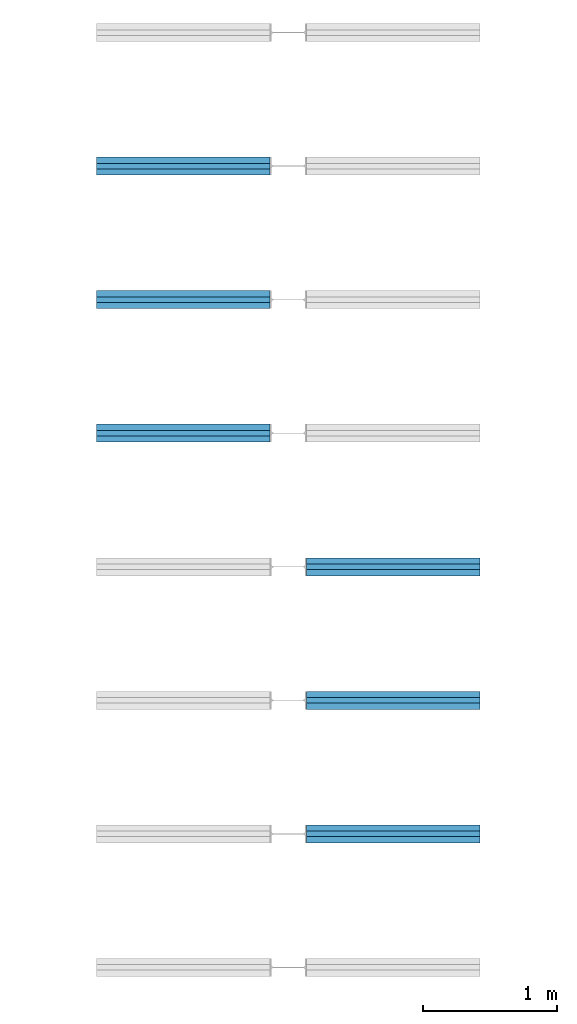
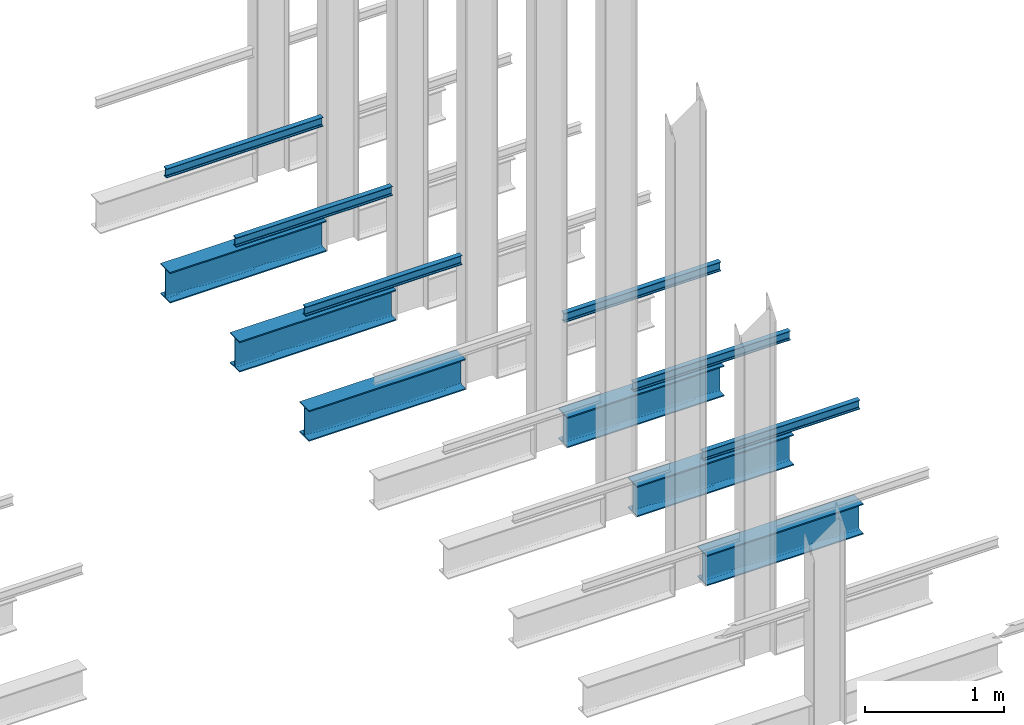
# One storey, part 184 of 302: 12 beams.
"""IFC2X3 building model written with IfcOpenShell, lengths in metres."""

import ifcopenshell
import ifcopenshell.guid

model = None  # the IFC model being written
_history = None  # IfcOwnerHistory: only IFC2X3 demands one
_inside = {}  # id of a spatial element -> (the spatial element, [elements in it])
_under = {}  # id of a project, library or spatial element -> (it, [spatial elements below it])
_declared = {}  # id of a project -> (the project, [libraries it declares])
_typed = {}  # id of a type object -> (the type object, [elements of that type])
_made_of = {}  # id of a material, layer set ... -> (it, [elements and type objects made of it])


def new_model(schema):
    """Start an empty IFC model of exactly this schema.

    Asked for "IFC4X3", IfcOpenShell would pick the latest addendum, in which some entities
    have other attributes; the version numbers below select the first issue.
    IFC2X3 requires an IfcOwnerHistory on every rooted entity: one is made here for all.
    """
    global model, _history
    if schema == "IFC4X3":
        model = ifcopenshell.file(schema_version=(4, 3, 0, 0))
    else:
        model = ifcopenshell.file(schema=schema)
    _inside.clear()
    _under.clear()
    _declared.clear()
    _typed.clear()
    _made_of.clear()
    _history = None
    if model.schema == "IFC2X3":
        org = make("IfcOrganization", Name="unknown")
        user = make(
            "IfcPersonAndOrganization",
            ThePerson=make("IfcPerson", FamilyName="unknown"),
            TheOrganization=org,
        )
        app = make(
            "IfcApplication",
            ApplicationDeveloper=org,
            Version="unknown",
            ApplicationFullName="unknown",
            ApplicationIdentifier="unknown",
        )
        _history = make(
            "IfcOwnerHistory",
            OwningUser=user,
            OwningApplication=app,
            ChangeAction="ADDED",
            CreationDate=0,
        )
    return model


def make(cls, **values):
    """One entity of the class cls with the attributes given. An attribute that is None is left unset."""
    return model.create_entity(
        cls, **{name: value for name, value in values.items() if value is not None}
    )


def entity(cls, *values):
    """Any entity or typed value of the class cls, its attributes in the order of the schema. None: left unset."""
    e = model.create_entity(cls)
    for i, value in enumerate(values):
        if value is not None:
            e[i] = value
    return e


def rooted(cls, **values):
    """An entity with a GlobalId (a new one), such as an element, a storey or a relation."""
    return make(cls, GlobalId=ifcopenshell.guid.new(), OwnerHistory=_history, **values)


def si_unit(unit_type, name, prefix=None):
    """IfcSIUnit, for example si_unit("LENGTHUNIT", "METRE", prefix="MILLI")."""
    return make("IfcSIUnit", UnitType=unit_type, Prefix=prefix, Name=name)


def converted_unit(unit_type, name, factor, base, dimensions=None, offset=None):
    """IfcConversionBasedUnit, such as the inch: factor (a typed value) times the base unit."""
    return make(
        "IfcConversionBasedUnit"
        if offset is None
        else "IfcConversionBasedUnitWithOffset",
        ConversionOffset=offset,
        Dimensions=None
        if dimensions is None
        else entity("IfcDimensionalExponents", *dimensions),
        UnitType=unit_type,
        Name=name,
        ConversionFactor=make(
            "IfcMeasureWithUnit", ValueComponent=factor, UnitComponent=base
        ),
    )


def derived_unit(unit_type, elements):
    """IfcDerivedUnit: a product of units, each with its exponent."""
    return make(
        "IfcDerivedUnit",
        Elements=[
            make("IfcDerivedUnitElement", Unit=unit, Exponent=power)
            for unit, power in elements
        ],
        UnitType=unit_type,
    )


def assignment(units):
    """IfcUnitAssignment: the units of a project."""
    return None if units is None else make("IfcUnitAssignment", Units=units)


def point(xyz):
    """IfcCartesianPoint."""
    return None if xyz is None else make("IfcCartesianPoint", Coordinates=xyz)


def direction(xyz):
    """IfcDirection."""
    return None if xyz is None else make("IfcDirection", DirectionRatios=xyz)


def frame(location, z_axis=None, x_axis=None):
    """IfcAxis2Placement3D, a coordinate frame: its origin and axes. An axis left out is left unset."""
    return make(
        "IfcAxis2Placement3D",
        Location=point(location),
        Axis=direction(z_axis),
        RefDirection=direction(x_axis),
    )


def frame_2d(location, x_axis=None):
    """IfcAxis2Placement2D, a coordinate frame in the plane: its origin and x axis."""
    return make(
        "IfcAxis2Placement2D", Location=point(location), RefDirection=direction(x_axis)
    )


def origin():
    """The frame at (0, 0, 0) with its axes left unset."""
    return frame((0.0, 0.0, 0.0))


def place(relative_to, where):
    """IfcLocalPlacement: puts the frame where relative to a parent placement (None: the world)."""
    return make(
        "IfcLocalPlacement", PlacementRelTo=relative_to, RelativePlacement=where
    )


def context(
    kind, dimensions, precision=None, world=None, true_north=None, identifier=None
):
    """IfcGeometricRepresentationContext, for example the 3D "Model" context."""
    return make(
        "IfcGeometricRepresentationContext",
        ContextIdentifier=identifier,
        ContextType=kind,
        CoordinateSpaceDimension=dimensions,
        Precision=precision,
        WorldCoordinateSystem=world,
        TrueNorth=true_north,
    )


def subcontext(parent, identifier, kind, view, scale=None):
    """IfcGeometricRepresentationSubContext, for example "Body" below "Model"."""
    return make(
        "IfcGeometricRepresentationSubContext",
        ContextIdentifier=identifier,
        ContextType=kind,
        ParentContext=parent,
        TargetScale=scale,
        TargetView=view,
    )


def project(units=None, contexts=None):
    """IfcProject with its units and contexts."""
    return rooted(
        "IfcProject",
        Name="project",
        RepresentationContexts=contexts,
        UnitsInContext=assignment(units),
    )


def spatial(cls, under=None, at=None, **own):
    """A site, building, storey or space (cls), placed at a placement, below another one or the project."""
    s = rooted(cls, ObjectPlacement=at, **own)
    if under is not None:
        _under.setdefault(under.id(), (under, []))[1].append(s)
    return s


def polyline(points):
    """IfcPolyline through the points."""
    return make("IfcPolyline", Points=[point(p) for p in points])


def circle_curve(where, radius):
    """IfcCircle in the frame where."""
    return make("IfcCircle", Position=where, Radius=radius)


def parameter(value):
    """IfcParameterValue: where a trimmed curve begins or ends, as a parameter of its basis curve."""
    return model.create_entity("IfcParameterValue", value)


def trimmed(basis, trim1, trim2, sense, master):
    """IfcTrimmedCurve: the piece of a basis curve between two trims."""
    return make(
        "IfcTrimmedCurve",
        BasisCurve=basis,
        Trim1=trim1,
        Trim2=trim2,
        SenseAgreement=sense,
        MasterRepresentation=master,
    )


def segment(curve, same_sense, transition):
    """IfcCompositeCurveSegment."""
    return make(
        "IfcCompositeCurveSegment",
        Transition=transition,
        SameSense=same_sense,
        ParentCurve=curve,
    )


def composite_curve(segments, self_intersect=None):
    """IfcCompositeCurve: segments joined end to end."""
    return make("IfcCompositeCurve", Segments=segments, SelfIntersect=self_intersect)


def profile(cls, at=None, kind="AREA", **sizes):
    """A parametric profile (cls). Its sizes go by their IFC names, for example OverallWidth=200.0."""
    return make(cls, ProfileType=kind, Position=at, **sizes)


def i_section(**sizes):
    """IfcIShapeProfileDef."""
    return profile("IfcIShapeProfileDef", **sizes)


def outline(outer, holes=None, kind="AREA"):
    """IfcArbitraryClosedProfileDef: a profile drawn as a closed curve; with holes, ...WithVoids."""
    if holes is None:
        return make("IfcArbitraryClosedProfileDef", ProfileType=kind, OuterCurve=outer)
    return make(
        "IfcArbitraryProfileDefWithVoids",
        ProfileType=kind,
        OuterCurve=outer,
        InnerCurves=holes,
    )


def extrude(swept, where, along, depth):
    """IfcExtrudedAreaSolid: the profile swept, set in the frame where, extruded along a direction by depth."""
    return make(
        "IfcExtrudedAreaSolid",
        SweptArea=swept,
        Position=where,
        ExtrudedDirection=direction(along),
        Depth=depth,
    )


def shape(context_of_items, identifier, shape_type, items):
    """IfcShapeRepresentation: the items that make up one representation, for example the "Body"."""
    return make(
        "IfcShapeRepresentation",
        ContextOfItems=context_of_items,
        RepresentationIdentifier=identifier,
        RepresentationType=shape_type,
        Items=items,
    )


def material(Name=None, Category=None):
    """IfcMaterial."""
    return make("IfcMaterial", Name=Name, Category=Category)


def made_of(thing, what):
    """Note that an element or type object is made of a material, layer set ...; save() writes the relation."""
    if what is not None:
        _made_of.setdefault(what.id(), (what, []))[1].append(thing)
    return thing


def type_object(cls, material=None, **own):
    """A type object (cls), such as IfcWallType, which elements share."""
    return made_of(rooted(cls, **own), material)


def element(
    cls,
    number,
    at=None,
    inside=None,
    cuts=None,
    type_object=None,
    material=None,
    context=None,
    identifier="Body",
    shape_type=None,
    held_by="IfcProductDefinitionShape",
    body=None,
    shapes=None,
    **own,
):
    """One element of the class cls, such as IfcWall. Its Tag is "e" and its number.

    at: its placement. inside: the storey or other place that contains it. cuts: it is an
    opening in that element (IfcRelVoidsElement). A single representation is given by context,
    identifier, shape_type and body (its items); several are given by shapes. held_by: the class
    of the entity that holds the representations. save() writes the other relations.
    """
    e = rooted(cls, Tag="e%d" % number, ObjectPlacement=at, **own)
    if body is not None:
        shapes = [shape(context, identifier, shape_type, body)]
    if shapes is not None:
        e.Representation = make(held_by, Representations=shapes)
    if inside is not None:
        _inside.setdefault(inside.id(), (inside, []))[1].append(e)
    if cuts is not None:
        rooted(
            "IfcRelVoidsElement", RelatingBuildingElement=cuts, RelatedOpeningElement=e
        )
    if type_object is not None:
        _typed.setdefault(type_object.id(), (type_object, []))[1].append(e)
    return made_of(e, material)


def aggregate(whole, parts):
    """IfcRelAggregates: a whole, such as a stair, and the parts it consists of."""
    return rooted("IfcRelAggregates", RelatingObject=whole, RelatedObjects=parts)


def save(model, path):
    """Write the relations noted so far, then the file.

    IfcRelAggregates (storeys below a building ...), IfcRelContainedInSpatialStructure (elements
    in a storey), IfcRelDefinesByType, IfcRelAssociatesMaterial and IfcRelDeclares: one each for
    every whole, place, type object, material and project.
    """
    for whole, parts in _under.values():
        aggregate(whole, parts)
    for where, things in _inside.values():
        rooted(
            "IfcRelContainedInSpatialStructure",
            RelatedElements=things,
            RelatingStructure=where,
        )
    for kind, things in _typed.values():
        rooted("IfcRelDefinesByType", RelatedObjects=things, RelatingType=kind)
    for what, things in _made_of.values():
        rooted("IfcRelAssociatesMaterial", RelatedObjects=things, RelatingMaterial=what)
    for by, libraries in _declared.values():
        rooted("IfcRelDeclares", RelatingContext=by, RelatedDefinitions=libraries)
    model.write(path)


model = new_model("IFC2X3")

# Units and contexts
model_context = context("Model", 3, precision=1e-05, world=origin(), true_north=direction((6.12303176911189e-17, 1.0)))
body_context = subcontext(model_context, "Body", "Model", "MODEL_VIEW")
ifc_project = project(units=[si_unit("LENGTHUNIT", "METRE"), si_unit("AREAUNIT", "SQUARE_METRE"), si_unit("VOLUMEUNIT", "CUBIC_METRE"), converted_unit("PLANEANGLEUNIT", "DEGREE", entity("IfcRatioMeasure", 0.0174532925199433), si_unit("PLANEANGLEUNIT", "RADIAN"), dimensions=[0, 0, 0, 0, 0, 0, 0]), si_unit("MASSUNIT", "GRAM", prefix="KILO"), derived_unit("MASSDENSITYUNIT", [(si_unit("MASSUNIT", "GRAM", prefix="KILO"), 1), (si_unit("LENGTHUNIT", "METRE"), -3)]), derived_unit("MOMENTOFINERTIAUNIT", [(si_unit("LENGTHUNIT", "METRE"), 4)]), si_unit("TIMEUNIT", "SECOND"), si_unit("FREQUENCYUNIT", "HERTZ"), si_unit("THERMODYNAMICTEMPERATUREUNIT", "DEGREE_CELSIUS"), derived_unit("THERMALTRANSMITTANCEUNIT", [(si_unit("MASSUNIT", "GRAM", prefix="KILO"), 1), (si_unit("THERMODYNAMICTEMPERATUREUNIT", "KELVIN"), -1), (si_unit("TIMEUNIT", "SECOND"), -3)]), derived_unit("VOLUMETRICFLOWRATEUNIT", [(si_unit("LENGTHUNIT", "METRE"), 3), (si_unit("TIMEUNIT", "SECOND"), -1)]), si_unit("ELECTRICCURRENTUNIT", "AMPERE"), si_unit("ELECTRICVOLTAGEUNIT", "VOLT"), si_unit("POWERUNIT", "WATT"), si_unit("FORCEUNIT", "NEWTON", prefix="KILO"), si_unit("ILLUMINANCEUNIT", "LUX"), si_unit("LUMINOUSFLUXUNIT", "LUMEN"), si_unit("LUMINOUSINTENSITYUNIT", "CANDELA"), derived_unit("USERDEFINED", [(si_unit("MASSUNIT", "GRAM", prefix="KILO"), -1), (si_unit("LENGTHUNIT", "METRE"), -2), (si_unit("TIMEUNIT", "SECOND"), 3), (si_unit("LUMINOUSFLUXUNIT", "LUMEN"), 1)]), derived_unit("LINEARVELOCITYUNIT", [(si_unit("LENGTHUNIT", "METRE"), 1), (si_unit("TIMEUNIT", "SECOND"), -1)]), si_unit("PRESSUREUNIT", "PASCAL"), derived_unit("USERDEFINED", [(si_unit("LENGTHUNIT", "METRE"), -2), (si_unit("MASSUNIT", "GRAM", prefix="KILO"), 1), (si_unit("TIMEUNIT", "SECOND"), -2)]), derived_unit("LINEARFORCEUNIT", [(si_unit("MASSUNIT", "GRAM", prefix="KILO"), 1), (si_unit("LENGTHUNIT", "METRE"), 1), (si_unit("TIMEUNIT", "SECOND"), -2), (si_unit("LENGTHUNIT", "METRE"), -1)]), derived_unit("PLANARFORCEUNIT", [(si_unit("MASSUNIT", "GRAM", prefix="KILO"), 1), (si_unit("LENGTHUNIT", "METRE"), 1), (si_unit("TIMEUNIT", "SECOND"), -2), (si_unit("LENGTHUNIT", "METRE"), -2)])], contexts=[model_context])

# Site, building, storey
site_placement = place(None, origin())
site = spatial("IfcSite", under=ifc_project, at=site_placement, Name="Default", CompositionType="ELEMENT")
building_placement = place(site_placement, origin())
building = spatial("IfcBuilding", under=site, at=building_placement, CompositionType="ELEMENT")
storey_placement = place(building_placement, frame((0.0, 0.0, -1.3)))
storey = spatial("IfcBuildingStorey", under=building, at=storey_placement, Name="00_EG", CompositionType="ELEMENT", Elevation=-1.3)

# Beams
ifc_material = material(Name="Metall - Baustahl S235")
beam_type_1 = type_object("IfcBeamType", Name="IPN Träger:IPN 80", PredefinedType="NOTDEFINED")
beam_1_placement = place(storey_placement, frame((-164.910111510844, 54.0365889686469, 2.42), z_axis=(0.0, 0.0, 1.0), x_axis=(-1.0, 0.0, 0.0)))
element("IfcBeam", 1, at=beam_1_placement, inside=storey, type_object=beam_type_1, material=ifc_material, Name="IPN Träger:IPN 80", ObjectType="IPN Träger:IPN 80", context=body_context, shape_type="SweptSolid", body=[
    extrude(outline(composite_curve([segment(polyline([(0.0375704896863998, -0.0209999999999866), (0.0399999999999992, -0.0209999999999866)]), True, "CONTINUOUS"), segment(polyline([(0.0399999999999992, -0.0209999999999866), (0.0399999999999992, 0.0210000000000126)]), True, "CONTINUOUS"), segment(polyline([(0.039999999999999, 0.0210000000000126), (0.037570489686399, 0.0210000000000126)]), True, "CONTINUOUS"), segment(trimmed(circle_curve(frame_2d((0.0375704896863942, 0.0187000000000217), x_axis=(0.0, 1.0)), 0.0022999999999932), [parameter(0.0)], [parameter(82.0300000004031)], True, "PARAMETER"), True, "CONTINUOUS"), segment(polyline([(0.0352927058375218, 0.0190189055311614), (0.0333732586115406, 0.00530924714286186)]), True, "CONTINUOUS"), segment(trimmed(circle_curve(frame_2d((0.0295109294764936, 0.00585000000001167), x_axis=(0.990340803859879, -0.138654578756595)), 0.00389999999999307), [parameter(277.969999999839)], [parameter(0.0)], True, "PARAMETER"), False, "CONTINUOUS"), segment(polyline([(0.0295109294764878, 0.00195000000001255), (-0.0295109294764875, 0.00195000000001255)]), True, "CONTINUOUS"), segment(trimmed(circle_curve(frame_2d((-0.0295109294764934, 0.00585000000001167), x_axis=(0.0, -1.0)), 0.00389999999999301), [parameter(277.969999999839)], [parameter(0.0)], True, "PARAMETER"), False, "CONTINUOUS"), segment(polyline([(-0.0333732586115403, 0.00530924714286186), (-0.0352927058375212, 0.0190189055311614)]), True, "CONTINUOUS"), segment(trimmed(circle_curve(frame_2d((-0.0375704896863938, 0.0187000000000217), x_axis=(0.990340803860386, 0.138654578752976)), 0.00229999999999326), [parameter(0.0)], [parameter(82.0300000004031)], True, "PARAMETER"), True, "CONTINUOUS"), segment(polyline([(-0.0375704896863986, 0.0210000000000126), (-0.0400000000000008, 0.0210000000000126)]), True, "CONTINUOUS"), segment(polyline([(-0.0400000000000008, 0.0210000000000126), (-0.0400000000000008, -0.0209999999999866)]), True, "CONTINUOUS"), segment(polyline([(-0.0400000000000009, -0.0209999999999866), (-0.037570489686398, -0.0209999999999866)]), True, "CONTINUOUS"), segment(trimmed(circle_curve(frame_2d((-0.0375704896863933, -0.0186999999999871), x_axis=(0.0, -1.0)), 0.00229999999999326), [parameter(0.0)], [parameter(82.0300000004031)], True, "PARAMETER"), True, "CONTINUOUS"), segment(polyline([(-0.0352927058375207, -0.0190189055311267), (-0.0333732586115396, -0.00530924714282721)]), True, "CONTINUOUS"), segment(trimmed(circle_curve(frame_2d((-0.0295109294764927, -0.00584999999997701), x_axis=(-0.990340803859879, 0.138654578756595)), 0.00389999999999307), [parameter(277.969999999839)], [parameter(0.0)], True, "PARAMETER"), False, "CONTINUOUS"), segment(polyline([(-0.0295109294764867, -0.00194999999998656), (0.0295109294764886, -0.00194999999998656)]), True, "CONTINUOUS"), segment(trimmed(circle_curve(frame_2d((0.0295109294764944, -0.00584999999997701), x_axis=(0.0, 1.0)), 0.00389999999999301), [parameter(277.969999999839)], [parameter(0.0)], True, "PARAMETER"), False, "CONTINUOUS"), segment(polyline([(0.0333732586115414, -0.00530924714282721), (0.0352927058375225, -0.0190189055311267)]), True, "CONTINUOUS"), segment(trimmed(circle_curve(frame_2d((0.0375704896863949, -0.0186999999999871), x_axis=(-0.990340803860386, -0.138654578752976)), 0.00229999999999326), [parameter(0.0)], [parameter(82.0300000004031)], True, "PARAMETER"), True, "CONTINUOUS")], self_intersect=False)), frame((0.000100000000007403, 0.0209999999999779, -0.0400000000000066), z_axis=(1.0, 0.0, 0.0), x_axis=(0.0, 0.0, -1.0)), (0.0, 0.0, 1.0), 1.29990000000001),
])
beam_2_placement = place(storey_placement, frame((-164.910111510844, 53.0365889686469, 2.42), z_axis=(0.0, 0.0, 1.0), x_axis=(-1.0, 0.0, 0.0)))
element("IfcBeam", 2, at=beam_2_placement, inside=storey, type_object=beam_type_1, material=ifc_material, Name="IPN Träger:IPN 80", ObjectType="IPN Träger:IPN 80", context=body_context, shape_type="SweptSolid", body=[
    extrude(outline(composite_curve([segment(polyline([(0.0375704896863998, -0.0210000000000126), (0.0399999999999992, -0.0210000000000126)]), True, "CONTINUOUS"), segment(polyline([(0.0399999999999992, -0.0210000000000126), (0.0399999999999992, 0.0209999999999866)]), True, "CONTINUOUS"), segment(polyline([(0.039999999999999, 0.0209999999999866), (0.037570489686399, 0.0209999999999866)]), True, "CONTINUOUS"), segment(trimmed(circle_curve(frame_2d((0.0375704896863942, 0.0186999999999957), x_axis=(0.0, 1.0)), 0.0022999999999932), [parameter(0.0)], [parameter(82.0300000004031)], True, "PARAMETER"), True, "CONTINUOUS"), segment(polyline([(0.0352927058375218, 0.0190189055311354), (0.0333732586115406, 0.00530924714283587)]), True, "CONTINUOUS"), segment(trimmed(circle_curve(frame_2d((0.0295109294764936, 0.00584999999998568), x_axis=(0.990340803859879, -0.138654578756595)), 0.00389999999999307), [parameter(277.969999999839)], [parameter(0.0)], True, "PARAMETER"), False, "CONTINUOUS"), segment(polyline([(0.0295109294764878, 0.00194999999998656), (-0.0295109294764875, 0.00194999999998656)]), True, "CONTINUOUS"), segment(trimmed(circle_curve(frame_2d((-0.0295109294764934, 0.00584999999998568), x_axis=(0.0, -1.0)), 0.00389999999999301), [parameter(277.969999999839)], [parameter(0.0)], True, "PARAMETER"), False, "CONTINUOUS"), segment(polyline([(-0.0333732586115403, 0.00530924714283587), (-0.0352927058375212, 0.0190189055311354)]), True, "CONTINUOUS"), segment(trimmed(circle_curve(frame_2d((-0.0375704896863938, 0.0186999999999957), x_axis=(0.990340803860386, 0.138654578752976)), 0.00229999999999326), [parameter(0.0)], [parameter(82.0300000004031)], True, "PARAMETER"), True, "CONTINUOUS"), segment(polyline([(-0.0375704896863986, 0.0209999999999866), (-0.0400000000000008, 0.0209999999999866)]), True, "CONTINUOUS"), segment(polyline([(-0.0400000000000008, 0.0209999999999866), (-0.0400000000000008, -0.0210000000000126)]), True, "CONTINUOUS"), segment(polyline([(-0.0400000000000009, -0.0210000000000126), (-0.037570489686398, -0.0210000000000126)]), True, "CONTINUOUS"), segment(trimmed(circle_curve(frame_2d((-0.0375704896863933, -0.0187000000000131), x_axis=(0.0, -1.0)), 0.00229999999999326), [parameter(0.0)], [parameter(82.0300000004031)], True, "PARAMETER"), True, "CONTINUOUS"), segment(polyline([(-0.0352927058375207, -0.0190189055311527), (-0.0333732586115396, -0.0053092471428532)]), True, "CONTINUOUS"), segment(trimmed(circle_curve(frame_2d((-0.0295109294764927, -0.005850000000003), x_axis=(-0.990340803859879, 0.138654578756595)), 0.00389999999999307), [parameter(277.969999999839)], [parameter(0.0)], True, "PARAMETER"), False, "CONTINUOUS"), segment(polyline([(-0.0295109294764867, -0.00195000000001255), (0.0295109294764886, -0.00195000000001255)]), True, "CONTINUOUS"), segment(trimmed(circle_curve(frame_2d((0.0295109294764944, -0.005850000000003), x_axis=(0.0, 1.0)), 0.00389999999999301), [parameter(277.969999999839)], [parameter(0.0)], True, "PARAMETER"), False, "CONTINUOUS"), segment(polyline([(0.0333732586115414, -0.0053092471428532), (0.0352927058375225, -0.0190189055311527)]), True, "CONTINUOUS"), segment(trimmed(circle_curve(frame_2d((0.0375704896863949, -0.0187000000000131), x_axis=(-0.990340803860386, -0.138654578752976)), 0.00229999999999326), [parameter(0.0)], [parameter(82.0300000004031)], True, "PARAMETER"), True, "CONTINUOUS")], self_intersect=False)), frame((0.000100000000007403, 0.0210000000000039, -0.0400000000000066), z_axis=(1.0, 0.0, 0.0), x_axis=(0.0, 0.0, -1.0)), (0.0, 0.0, 1.0), 1.29990000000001),
])
beam_3_placement = place(storey_placement, frame((-164.910111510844, 52.0365889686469, 2.42), z_axis=(0.0, 0.0, 1.0), x_axis=(-1.0, 0.0, 0.0)))
element("IfcBeam", 3, at=beam_3_placement, inside=storey, type_object=beam_type_1, material=ifc_material, Name="IPN Träger:IPN 80", ObjectType="IPN Träger:IPN 80", context=body_context, shape_type="SweptSolid", body=[
    extrude(outline(composite_curve([segment(polyline([(0.0375704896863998, -0.0209999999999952), (0.0399999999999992, -0.0209999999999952)]), True, "CONTINUOUS"), segment(polyline([(0.0399999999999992, -0.0209999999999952), (0.0399999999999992, 0.0210000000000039)]), True, "CONTINUOUS"), segment(polyline([(0.039999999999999, 0.0210000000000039), (0.037570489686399, 0.0210000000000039)]), True, "CONTINUOUS"), segment(trimmed(circle_curve(frame_2d((0.0375704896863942, 0.0187000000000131), x_axis=(0.0, 1.0)), 0.0022999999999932), [parameter(0.0)], [parameter(82.0300000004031)], True, "PARAMETER"), True, "CONTINUOUS"), segment(polyline([(0.0352927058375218, 0.0190189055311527), (0.0333732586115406, 0.0053092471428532)]), True, "CONTINUOUS"), segment(trimmed(circle_curve(frame_2d((0.0295109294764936, 0.005850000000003), x_axis=(0.990340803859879, -0.138654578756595)), 0.00389999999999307), [parameter(277.969999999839)], [parameter(0.0)], True, "PARAMETER"), False, "CONTINUOUS"), segment(polyline([(0.0295109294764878, 0.00195000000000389), (-0.0295109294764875, 0.00195000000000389)]), True, "CONTINUOUS"), segment(trimmed(circle_curve(frame_2d((-0.0295109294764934, 0.005850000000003), x_axis=(0.0, -1.0)), 0.00389999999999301), [parameter(277.969999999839)], [parameter(0.0)], True, "PARAMETER"), False, "CONTINUOUS"), segment(polyline([(-0.0333732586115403, 0.0053092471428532), (-0.0352927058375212, 0.0190189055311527)]), True, "CONTINUOUS"), segment(trimmed(circle_curve(frame_2d((-0.0375704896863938, 0.0187000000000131), x_axis=(0.990340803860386, 0.138654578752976)), 0.00229999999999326), [parameter(0.0)], [parameter(82.0300000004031)], True, "PARAMETER"), True, "CONTINUOUS"), segment(polyline([(-0.0375704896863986, 0.0210000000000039), (-0.0400000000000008, 0.0210000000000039)]), True, "CONTINUOUS"), segment(polyline([(-0.0400000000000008, 0.0210000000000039), (-0.0400000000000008, -0.0209999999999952)]), True, "CONTINUOUS"), segment(polyline([(-0.0400000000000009, -0.0209999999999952), (-0.037570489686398, -0.0209999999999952)]), True, "CONTINUOUS"), segment(trimmed(circle_curve(frame_2d((-0.0375704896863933, -0.0186999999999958), x_axis=(0.0, -1.0)), 0.00229999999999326), [parameter(0.0)], [parameter(82.0300000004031)], True, "PARAMETER"), True, "CONTINUOUS"), segment(polyline([(-0.0352927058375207, -0.0190189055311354), (-0.0333732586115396, -0.00530924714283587)]), True, "CONTINUOUS"), segment(trimmed(circle_curve(frame_2d((-0.0295109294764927, -0.00584999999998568), x_axis=(-0.990340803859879, 0.138654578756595)), 0.00389999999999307), [parameter(277.969999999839)], [parameter(0.0)], True, "PARAMETER"), False, "CONTINUOUS"), segment(polyline([(-0.0295109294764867, -0.00194999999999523), (0.0295109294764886, -0.00194999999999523)]), True, "CONTINUOUS"), segment(trimmed(circle_curve(frame_2d((0.0295109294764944, -0.00584999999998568), x_axis=(0.0, 1.0)), 0.00389999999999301), [parameter(277.969999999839)], [parameter(0.0)], True, "PARAMETER"), False, "CONTINUOUS"), segment(polyline([(0.0333732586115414, -0.00530924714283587), (0.0352927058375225, -0.0190189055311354)]), True, "CONTINUOUS"), segment(trimmed(circle_curve(frame_2d((0.0375704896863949, -0.0186999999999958), x_axis=(-0.990340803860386, -0.138654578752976)), 0.00229999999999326), [parameter(0.0)], [parameter(82.0300000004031)], True, "PARAMETER"), True, "CONTINUOUS")], self_intersect=False)), frame((0.000100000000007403, 0.0209999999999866, -0.0400000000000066), z_axis=(1.0, 0.0, 0.0), x_axis=(0.0, 0.0, -1.0)), (0.0, 0.0, 1.0), 1.29990000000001),
])
beam_4_placement = place(storey_placement, frame((-164.640111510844, 50.9945889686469, 2.42)))
element("IfcBeam", 4, at=beam_4_placement, inside=storey, type_object=beam_type_1, material=ifc_material, Name="IPN Träger:IPN 80", ObjectType="IPN Träger:IPN 80", context=body_context, shape_type="SweptSolid", body=[
    extrude(outline(composite_curve([segment(polyline([(0.0375704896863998, -0.0210000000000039), (0.0399999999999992, -0.0210000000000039)]), True, "CONTINUOUS"), segment(polyline([(0.0399999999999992, -0.0210000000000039), (0.0399999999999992, 0.0209999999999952)]), True, "CONTINUOUS"), segment(polyline([(0.039999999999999, 0.0209999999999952), (0.037570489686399, 0.0209999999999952)]), True, "CONTINUOUS"), segment(trimmed(circle_curve(frame_2d((0.0375704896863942, 0.0187000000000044), x_axis=(0.0, 1.0)), 0.0022999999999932), [parameter(0.0)], [parameter(82.0300000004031)], True, "PARAMETER"), True, "CONTINUOUS"), segment(polyline([(0.0352927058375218, 0.019018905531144), (0.0333732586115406, 0.00530924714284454)]), True, "CONTINUOUS"), segment(trimmed(circle_curve(frame_2d((0.0295109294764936, 0.00584999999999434), x_axis=(0.990340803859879, -0.138654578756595)), 0.00389999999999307), [parameter(277.969999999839)], [parameter(0.0)], True, "PARAMETER"), False, "CONTINUOUS"), segment(polyline([(0.0295109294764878, 0.00194999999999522), (-0.0295109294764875, 0.00194999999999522)]), True, "CONTINUOUS"), segment(trimmed(circle_curve(frame_2d((-0.0295109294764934, 0.00584999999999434), x_axis=(0.0, -1.0)), 0.00389999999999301), [parameter(277.969999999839)], [parameter(0.0)], True, "PARAMETER"), False, "CONTINUOUS"), segment(polyline([(-0.0333732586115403, 0.00530924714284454), (-0.0352927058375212, 0.019018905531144)]), True, "CONTINUOUS"), segment(trimmed(circle_curve(frame_2d((-0.0375704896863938, 0.0187000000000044), x_axis=(0.990340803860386, 0.138654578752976)), 0.00229999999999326), [parameter(0.0)], [parameter(82.0300000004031)], True, "PARAMETER"), True, "CONTINUOUS"), segment(polyline([(-0.0375704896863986, 0.0209999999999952), (-0.0400000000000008, 0.0209999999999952)]), True, "CONTINUOUS"), segment(polyline([(-0.0400000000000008, 0.0209999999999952), (-0.0400000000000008, -0.0210000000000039)]), True, "CONTINUOUS"), segment(polyline([(-0.0400000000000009, -0.0210000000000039), (-0.037570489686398, -0.0210000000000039)]), True, "CONTINUOUS"), segment(trimmed(circle_curve(frame_2d((-0.0375704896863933, -0.0187000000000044), x_axis=(0.0, -1.0)), 0.00229999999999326), [parameter(0.0)], [parameter(82.0300000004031)], True, "PARAMETER"), True, "CONTINUOUS"), segment(polyline([(-0.0352927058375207, -0.019018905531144), (-0.0333732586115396, -0.00530924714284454)]), True, "CONTINUOUS"), segment(trimmed(circle_curve(frame_2d((-0.0295109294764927, -0.00584999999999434), x_axis=(-0.990340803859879, 0.138654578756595)), 0.00389999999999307), [parameter(277.969999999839)], [parameter(0.0)], True, "PARAMETER"), False, "CONTINUOUS"), segment(polyline([(-0.0295109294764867, -0.00195000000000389), (0.0295109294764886, -0.00195000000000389)]), True, "CONTINUOUS"), segment(trimmed(circle_curve(frame_2d((0.0295109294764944, -0.00584999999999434), x_axis=(0.0, 1.0)), 0.00389999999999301), [parameter(277.969999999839)], [parameter(0.0)], True, "PARAMETER"), False, "CONTINUOUS"), segment(polyline([(0.0333732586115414, -0.00530924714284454), (0.0352927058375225, -0.019018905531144)]), True, "CONTINUOUS"), segment(trimmed(circle_curve(frame_2d((0.0375704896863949, -0.0187000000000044), x_axis=(-0.990340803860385, -0.138654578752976)), 0.00229999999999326), [parameter(0.0)], [parameter(82.0300000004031)], True, "PARAMETER"), True, "CONTINUOUS")], self_intersect=False)), frame((9.99999999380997e-05, 0.0209999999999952, -0.0400000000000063), z_axis=(1.0, 0.0, 0.0), x_axis=(0.0, 0.0, -1.0)), (0.0, 0.0, 1.0), 1.29990000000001),
])
beam_5_placement = place(storey_placement, frame((-164.640111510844, 49.9945889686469, 2.42)))
element("IfcBeam", 5, at=beam_5_placement, inside=storey, type_object=beam_type_1, material=ifc_material, Name="IPN Träger:IPN 80", ObjectType="IPN Träger:IPN 80", context=body_context, shape_type="SweptSolid", body=[
    extrude(outline(composite_curve([segment(polyline([(0.0375704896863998, -0.0210000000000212), (0.0399999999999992, -0.0210000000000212)]), True, "CONTINUOUS"), segment(polyline([(0.0399999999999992, -0.0210000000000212), (0.0399999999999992, 0.0209999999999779)]), True, "CONTINUOUS"), segment(polyline([(0.039999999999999, 0.0209999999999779), (0.037570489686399, 0.0209999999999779)]), True, "CONTINUOUS"), segment(trimmed(circle_curve(frame_2d((0.0375704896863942, 0.0186999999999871), x_axis=(0.0, 1.0)), 0.0022999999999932), [parameter(0.0)], [parameter(82.0300000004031)], True, "PARAMETER"), True, "CONTINUOUS"), segment(polyline([(0.0352927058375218, 0.0190189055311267), (0.0333732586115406, 0.00530924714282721)]), True, "CONTINUOUS"), segment(trimmed(circle_curve(frame_2d((0.0295109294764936, 0.00584999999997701), x_axis=(0.990340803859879, -0.138654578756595)), 0.00389999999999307), [parameter(277.969999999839)], [parameter(0.0)], True, "PARAMETER"), False, "CONTINUOUS"), segment(polyline([(0.0295109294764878, 0.0019499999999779), (-0.0295109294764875, 0.0019499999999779)]), True, "CONTINUOUS"), segment(trimmed(circle_curve(frame_2d((-0.0295109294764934, 0.00584999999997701), x_axis=(0.0, -1.0)), 0.00389999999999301), [parameter(277.969999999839)], [parameter(0.0)], True, "PARAMETER"), False, "CONTINUOUS"), segment(polyline([(-0.0333732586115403, 0.00530924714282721), (-0.0352927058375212, 0.0190189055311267)]), True, "CONTINUOUS"), segment(trimmed(circle_curve(frame_2d((-0.0375704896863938, 0.0186999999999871), x_axis=(0.990340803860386, 0.138654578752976)), 0.00229999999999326), [parameter(0.0)], [parameter(82.0300000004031)], True, "PARAMETER"), True, "CONTINUOUS"), segment(polyline([(-0.0375704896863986, 0.0209999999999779), (-0.0400000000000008, 0.0209999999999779)]), True, "CONTINUOUS"), segment(polyline([(-0.0400000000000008, 0.0209999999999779), (-0.0400000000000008, -0.0210000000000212)]), True, "CONTINUOUS"), segment(polyline([(-0.0400000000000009, -0.0210000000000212), (-0.037570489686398, -0.0210000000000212)]), True, "CONTINUOUS"), segment(trimmed(circle_curve(frame_2d((-0.0375704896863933, -0.0187000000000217), x_axis=(0.0, -1.0)), 0.00229999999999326), [parameter(0.0)], [parameter(82.0300000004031)], True, "PARAMETER"), True, "CONTINUOUS"), segment(polyline([(-0.0352927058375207, -0.0190189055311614), (-0.0333732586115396, -0.00530924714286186)]), True, "CONTINUOUS"), segment(trimmed(circle_curve(frame_2d((-0.0295109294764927, -0.00585000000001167), x_axis=(-0.990340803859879, 0.138654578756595)), 0.00389999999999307), [parameter(277.969999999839)], [parameter(0.0)], True, "PARAMETER"), False, "CONTINUOUS"), segment(polyline([(-0.0295109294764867, -0.00195000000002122), (0.0295109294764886, -0.00195000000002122)]), True, "CONTINUOUS"), segment(trimmed(circle_curve(frame_2d((0.0295109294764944, -0.00585000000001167), x_axis=(0.0, 1.0)), 0.00389999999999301), [parameter(277.969999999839)], [parameter(0.0)], True, "PARAMETER"), False, "CONTINUOUS"), segment(polyline([(0.0333732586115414, -0.00530924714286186), (0.0352927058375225, -0.0190189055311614)]), True, "CONTINUOUS"), segment(trimmed(circle_curve(frame_2d((0.0375704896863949, -0.0187000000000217), x_axis=(-0.990340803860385, -0.138654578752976)), 0.00229999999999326), [parameter(0.0)], [parameter(82.0300000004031)], True, "PARAMETER"), True, "CONTINUOUS")], self_intersect=False)), frame((9.99999999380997e-05, 0.0210000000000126, -0.0400000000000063), z_axis=(1.0, 0.0, 0.0), x_axis=(0.0, 0.0, -1.0)), (0.0, 0.0, 1.0), 1.29990000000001),
])
beam_6_placement = place(storey_placement, frame((-164.640111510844, 48.9945889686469, 2.42)))
element("IfcBeam", 6, at=beam_6_placement, inside=storey, type_object=beam_type_1, material=ifc_material, Name="IPN Träger:IPN 80", ObjectType="IPN Träger:IPN 80", context=body_context, shape_type="SweptSolid", body=[
    extrude(outline(composite_curve([segment(polyline([(0.0375704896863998, -0.0209999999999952), (0.0399999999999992, -0.0209999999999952)]), True, "CONTINUOUS"), segment(polyline([(0.0399999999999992, -0.0209999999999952), (0.0399999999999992, 0.0210000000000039)]), True, "CONTINUOUS"), segment(polyline([(0.039999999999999, 0.0210000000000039), (0.037570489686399, 0.0210000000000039)]), True, "CONTINUOUS"), segment(trimmed(circle_curve(frame_2d((0.0375704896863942, 0.0187000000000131), x_axis=(0.0, 1.0)), 0.0022999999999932), [parameter(0.0)], [parameter(82.0300000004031)], True, "PARAMETER"), True, "CONTINUOUS"), segment(polyline([(0.0352927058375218, 0.0190189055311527), (0.0333732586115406, 0.0053092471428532)]), True, "CONTINUOUS"), segment(trimmed(circle_curve(frame_2d((0.0295109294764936, 0.005850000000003), x_axis=(0.990340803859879, -0.138654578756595)), 0.00389999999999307), [parameter(277.969999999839)], [parameter(0.0)], True, "PARAMETER"), False, "CONTINUOUS"), segment(polyline([(0.0295109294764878, 0.00195000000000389), (-0.0295109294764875, 0.00195000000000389)]), True, "CONTINUOUS"), segment(trimmed(circle_curve(frame_2d((-0.0295109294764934, 0.005850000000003), x_axis=(0.0, -1.0)), 0.00389999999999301), [parameter(277.969999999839)], [parameter(0.0)], True, "PARAMETER"), False, "CONTINUOUS"), segment(polyline([(-0.0333732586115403, 0.0053092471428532), (-0.0352927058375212, 0.0190189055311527)]), True, "CONTINUOUS"), segment(trimmed(circle_curve(frame_2d((-0.0375704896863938, 0.0187000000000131), x_axis=(0.990340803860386, 0.138654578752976)), 0.00229999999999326), [parameter(0.0)], [parameter(82.0300000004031)], True, "PARAMETER"), True, "CONTINUOUS"), segment(polyline([(-0.0375704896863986, 0.0210000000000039), (-0.0400000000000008, 0.0210000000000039)]), True, "CONTINUOUS"), segment(polyline([(-0.0400000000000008, 0.0210000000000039), (-0.0400000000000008, -0.0209999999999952)]), True, "CONTINUOUS"), segment(polyline([(-0.0400000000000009, -0.0209999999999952), (-0.037570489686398, -0.0209999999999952)]), True, "CONTINUOUS"), segment(trimmed(circle_curve(frame_2d((-0.0375704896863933, -0.0186999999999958), x_axis=(0.0, -1.0)), 0.00229999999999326), [parameter(0.0)], [parameter(82.0300000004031)], True, "PARAMETER"), True, "CONTINUOUS"), segment(polyline([(-0.0352927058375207, -0.0190189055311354), (-0.0333732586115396, -0.00530924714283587)]), True, "CONTINUOUS"), segment(trimmed(circle_curve(frame_2d((-0.0295109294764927, -0.00584999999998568), x_axis=(-0.990340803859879, 0.138654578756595)), 0.00389999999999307), [parameter(277.969999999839)], [parameter(0.0)], True, "PARAMETER"), False, "CONTINUOUS"), segment(polyline([(-0.0295109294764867, -0.00194999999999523), (0.0295109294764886, -0.00194999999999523)]), True, "CONTINUOUS"), segment(trimmed(circle_curve(frame_2d((0.0295109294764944, -0.00584999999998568), x_axis=(0.0, 1.0)), 0.00389999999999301), [parameter(277.969999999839)], [parameter(0.0)], True, "PARAMETER"), False, "CONTINUOUS"), segment(polyline([(0.0333732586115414, -0.00530924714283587), (0.0352927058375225, -0.0190189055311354)]), True, "CONTINUOUS"), segment(trimmed(circle_curve(frame_2d((0.0375704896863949, -0.0186999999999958), x_axis=(-0.990340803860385, -0.138654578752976)), 0.00229999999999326), [parameter(0.0)], [parameter(82.0300000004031)], True, "PARAMETER"), True, "CONTINUOUS")], self_intersect=False)), frame((9.99999999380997e-05, 0.0209999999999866, -0.0400000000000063), z_axis=(1.0, 0.0, 0.0), x_axis=(0.0, 0.0, -1.0)), (0.0, 0.0, 1.0), 1.29990000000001),
])
beam_type_2 = type_object("IfcBeamType", Name="IPE Träger:IPE 270", PredefinedType="NOTDEFINED")
beam_7_placement = place(storey_placement, frame((-164.640111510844, 49.0830889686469, 1.54000000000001)))
element("IfcBeam", 7, at=beam_7_placement, inside=storey, type_object=beam_type_2, material=ifc_material, Name="IPE Träger:IPE 270", ObjectType="IPE Träger:IPE 270", context=body_context, shape_type="SweptSolid", body=[
    extrude(i_section(OverallWidth=0.134999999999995, OverallDepth=0.27, WebThickness=0.0065999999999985, FlangeThickness=0.0102000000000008, FilletRadius=0.0149999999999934, at=frame_2d((5.96744875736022e-16, 0.0), x_axis=(0.0, 1.0))), frame((9.99999999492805e-05, -0.067500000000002, -0.135000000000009), z_axis=(1.0, 0.0, 0.0), x_axis=(0.0, 0.0, -1.0)), (0.0, 0.0, 1.0), 1.29990000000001),
])
beam_8_placement = place(storey_placement, frame((-164.640111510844, 50.0830889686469, 1.54000000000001)))
element("IfcBeam", 8, at=beam_8_placement, inside=storey, type_object=beam_type_2, material=ifc_material, Name="IPE Träger:IPE 270", ObjectType="IPE Träger:IPE 270", context=body_context, shape_type="SweptSolid", body=[
    extrude(i_section(OverallWidth=0.134999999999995, OverallDepth=0.27, WebThickness=0.0065999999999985, FlangeThickness=0.0102000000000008, FilletRadius=0.0149999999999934, at=frame_2d((5.96744875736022e-16, -8.66667848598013e-15), x_axis=(0.0, 1.0))), frame((9.99999999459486e-05, -0.0674999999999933, -0.135000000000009), z_axis=(1.0, 0.0, 0.0), x_axis=(0.0, 0.0, -1.0)), (0.0, 0.0, 1.0), 1.29990000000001),
])
beam_9_placement = place(storey_placement, frame((-164.640111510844, 51.0830889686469, 1.54000000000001)))
element("IfcBeam", 9, at=beam_9_placement, inside=storey, type_object=beam_type_2, material=ifc_material, Name="IPE Träger:IPE 270", ObjectType="IPE Träger:IPE 270", context=body_context, shape_type="SweptSolid", body=[
    extrude(i_section(OverallWidth=0.134999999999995, OverallDepth=0.27, WebThickness=0.0065999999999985, FlangeThickness=0.0102000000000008, FilletRadius=0.0149999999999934, at=frame_2d((5.96744875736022e-16, 0.0), x_axis=(0.0, 1.0))), frame((9.99999999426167e-05, -0.067500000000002, -0.135000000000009), z_axis=(1.0, 0.0, 0.0), x_axis=(0.0, 0.0, -1.0)), (0.0, 0.0, 1.0), 1.29990000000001),
])
beam_10_placement = place(storey_placement, frame((-164.910111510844, 52.0830889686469, 1.54000000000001), z_axis=(0.0, 0.0, 1.0), x_axis=(-1.0, 0.0, 0.0)))
element("IfcBeam", 10, at=beam_10_placement, inside=storey, type_object=beam_type_2, material=ifc_material, Name="IPE Träger:IPE 270", ObjectType="IPE Träger:IPE 270", context=body_context, shape_type="SweptSolid", body=[
    extrude(i_section(OverallWidth=0.134999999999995, OverallDepth=0.27, WebThickness=0.0065999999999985, FlangeThickness=0.0102000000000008, FilletRadius=0.0149999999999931, at=frame_2d((5.96744875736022e-16, 8.66667848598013e-15), x_axis=(0.0, 1.0))), frame((0.000100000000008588, 0.0674999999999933, -0.135000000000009), z_axis=(1.0, 0.0, 0.0), x_axis=(0.0, 0.0, -1.0)), (0.0, 0.0, 1.0), 1.29990000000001),
])
beam_11_placement = place(storey_placement, frame((-164.910111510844, 53.0830889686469, 1.54000000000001), z_axis=(0.0, 0.0, 1.0), x_axis=(-1.0, 0.0, 0.0)))
element("IfcBeam", 11, at=beam_11_placement, inside=storey, type_object=beam_type_2, material=ifc_material, Name="IPE Träger:IPE 270", ObjectType="IPE Träger:IPE 270", context=body_context, shape_type="SweptSolid", body=[
    extrude(i_section(OverallWidth=0.134999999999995, OverallDepth=0.27, WebThickness=0.0065999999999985, FlangeThickness=0.0102000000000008, FilletRadius=0.0149999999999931, at=frame_2d((5.96744875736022e-16, -8.66667848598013e-15), x_axis=(0.0, 1.0))), frame((0.000100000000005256, 0.0675000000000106, -0.135000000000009), z_axis=(1.0, 0.0, 0.0), x_axis=(0.0, 0.0, -1.0)), (0.0, 0.0, 1.0), 1.29990000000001),
])
beam_12_placement = place(storey_placement, frame((-164.910111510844, 54.0830889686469, 1.54000000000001), z_axis=(0.0, 0.0, 1.0), x_axis=(-1.0, 0.0, 0.0)))
element("IfcBeam", 12, at=beam_12_placement, inside=storey, type_object=beam_type_2, material=ifc_material, Name="IPE Träger:IPE 270", ObjectType="IPE Träger:IPE 270", context=body_context, shape_type="SweptSolid", body=[
    extrude(i_section(OverallWidth=0.134999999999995, OverallDepth=0.27, WebThickness=0.0065999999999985, FlangeThickness=0.0102000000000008, FilletRadius=0.0149999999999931, at=frame_2d((5.96744875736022e-16, -8.66667848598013e-15), x_axis=(0.0, 1.0))), frame((0.000100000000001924, 0.0675000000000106, -0.135000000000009), z_axis=(1.0, 0.0, 0.0), x_axis=(0.0, 0.0, -1.0)), (0.0, 0.0, 1.0), 1.29990000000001),
])

save(model, "model.ifc")
